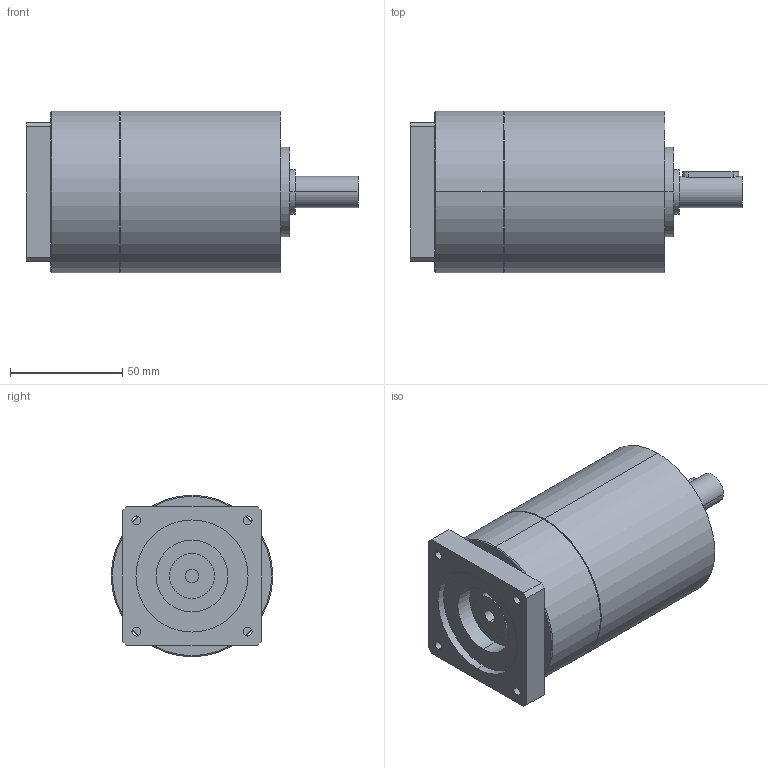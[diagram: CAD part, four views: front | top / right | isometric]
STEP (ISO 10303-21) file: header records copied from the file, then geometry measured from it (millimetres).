
FILE_DESCRIPTION(('CoCreate Modeling STEP Export'),'2;1');
FILE_NAME('GPT75_ig-9-12-16-20-25-28-35-40-50-70-100_14_B14T_6_P31.stp','2014-08-27T13:22:57',(''),(''),'CoCreate Modeling STEP processor for AP214 (Solid Model)','CoCreate Modeling 16.00C 25-Feb-2009 (C) Parametric Technology GmbH','');
FILE_SCHEMA(('AUTOMOTIVE_DESIGN { 1 0 10303 214 1 1 1 1 }'));
Length unit declared in the file: millimetre
Products named in the file (2): GPT75_ig-9-12-16-20-25-28-35-40-50-70-100_14_B14T_6_P31
Assembly tree (1 placements, depth 2):
  GPT75_ig-9-12-16-20-25-28-35-40-50-70-100_14_B14T_6_P31
    GPT75_ig-9-12-16-20-25-28-35-40-50-70-100_14_B14T_6_P31
Bounding box: 148 x 72 x 72 mm (x, y, z)
Volume: 455572.6 mm3; surface area: 40178.1 mm2
Topology: 1 solids, 1 shells, 80 faces, 198 edges, 129 vertices
Faces by surface type: cylinder 42, plane 34, cone 4
Entity records: 2353 total; most frequent: CARTESIAN_POINT 689, ORIENTED_EDGE 396, DIRECTION 276, EDGE_CURVE 198, VERTEX_POINT 129, AXIS2_PLACEMENT_3D 104, EDGE_LOOP 97, FACE_OUTER_BOUND 80
